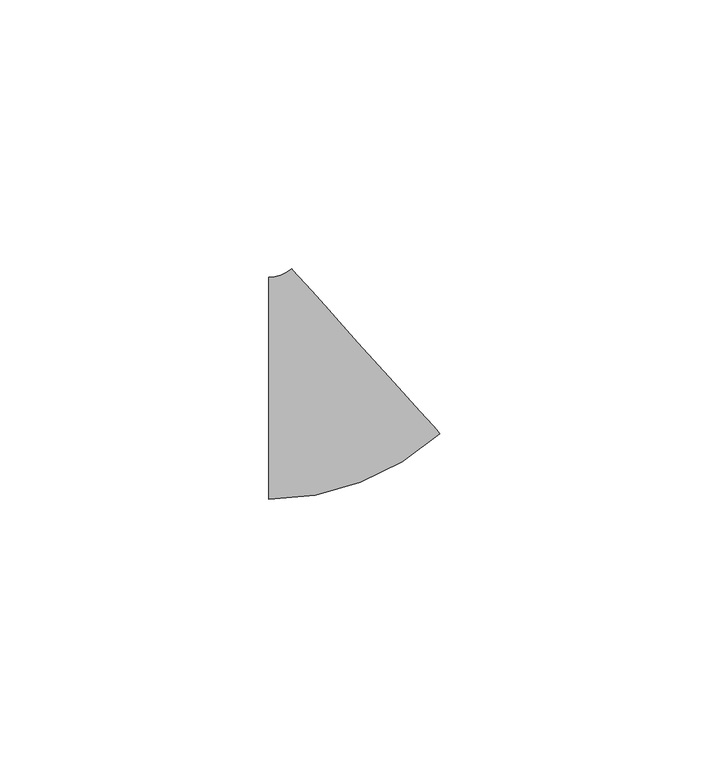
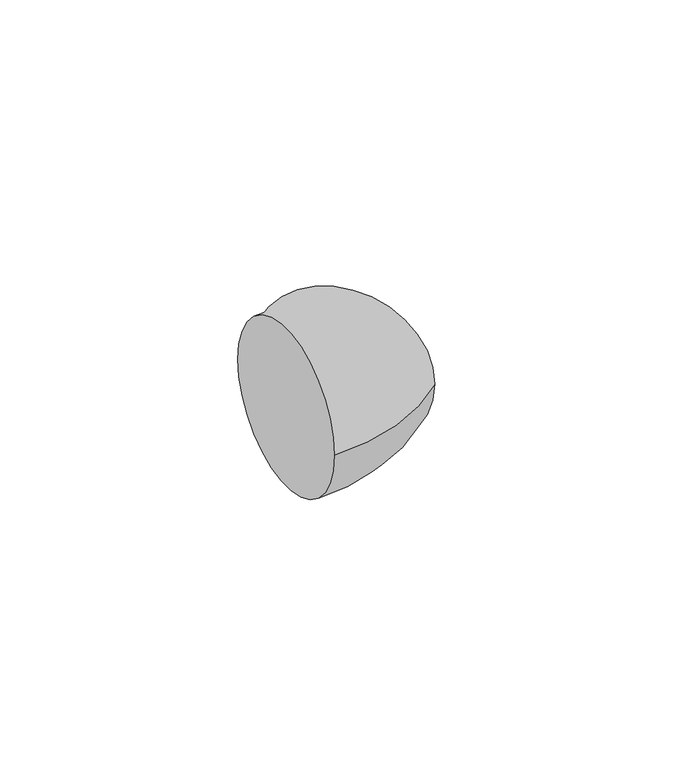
"""IFC4 building model written with IfcOpenShell, lengths in millimetres: pipe fitting geometry, M_Codo - Genérico : Estándar."""

from ifc_helpers import new_model, si_unit, point, frame, origin, place, context, project, spatial, circle_curve, ellipse_curve, trimmed, source, transform, mapped, element, save
from ifc_brep_helpers import plane_surface, revolved_surface, advanced_brep


def pipe_fitting_62cf9e26(model_context):
    return source(origin(), model_context, "Body", "AdvancedBrep", [
        advanced_brep(
        [(-10.3588997, -20.6375, 0.0), (-10.3588997, 20.6375, 0.0), (21.5070031, -8.4060709, 0.0), (-6.1101127, 22.2683572, 0.0)],
        [
            (0, 1, circle_curve(frame((-10.3588997, 0.0, 0.0), z_axis=(-1.0, 0.0, 0.0), x_axis=(0.0, 1.0, 0.0)), 20.6375)),
            (1, 0, circle_curve(frame((-10.3588997, 0.0, 0.0), z_axis=(-1.0, 0.0, 0.0), x_axis=(0.0, 1.0, 0.0)), 20.6375)),
            (2, 3, circle_curve(frame((7.6984452, 6.9311431, 0.0), z_axis=(0.7431720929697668, 0.6691003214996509, 0.0), x_axis=(-0.6691003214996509, 0.7431720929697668, 0.0)), 20.6375)),
            (3, 2, circle_curve(frame((7.6984452, 6.9311431, 0.0), z_axis=(0.7431720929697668, 0.6691003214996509, 0.0), x_axis=(-0.6691003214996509, 0.7431720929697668, 0.0)), 20.6375)),
            (3, 1, circle_curve(frame((-10.3588997, 26.9875, 0.0), z_axis=(0.0, 0.0, -1.0), x_axis=(0.0, -1.0, 0.0)), 6.35)),
            (0, 2, circle_curve(frame((-10.3588997, 26.9875, 0.0), z_axis=(0.0, 0.0, 1.0), x_axis=(0.0, -1.0, 0.0)), 47.625)),
        ],
        [
            plane_surface(frame((-10.3588997, 0.0, 0.0), z_axis=(-1.0, 0.0, 0.0), x_axis=(0.0, 0.0, 1.0))),
            plane_surface(frame((7.6984452, 6.9311431, 0.0), z_axis=(0.7431720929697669, 0.6691003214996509, 0.0), x_axis=(0.0, 0.0, 1.0))),
            revolved_surface(trimmed(ellipse_curve(frame((-10.3588997, 0.0, 0.0), z_axis=(-1.0, 0.0, 0.0), x_axis=(0.0, 1.0, 0.0)), 20.6375, 20.6375), [point((-10.3588997, -20.6375, 0.0))], [point((-10.3588997, 20.6375, 0.0))], True, "CARTESIAN"), (-10.3588997, 26.9875, 0.0), (0.0, 0.0, 1.0)),
            revolved_surface(trimmed(ellipse_curve(frame((-10.3588997, 0.0, 0.0), z_axis=(-1.0, 0.0, 0.0), x_axis=(0.0, 1.0, 0.0)), 20.6375, 20.6375), [point((-10.3588997, 20.6375, 0.0))], [point((-10.3588997, -20.6375, 0.0))], True, "CARTESIAN"), (-10.3588997, 26.9875, 0.0), (0.0, 0.0, 1.0)),
        ],
        [
            (0, [[1, 2]]),
            (1, [[3, 4]]),
            (2, [[5, -1, 6, -4]]),
            (3, [[-6, -2, -5, -3]]),
        ],
    ),
    ])


if __name__ == "__main__":
    model = new_model("IFC4")
    model_context = context("Model", 3, world=origin())
    ifc_project = project(units=[si_unit("LENGTHUNIT", "METRE", prefix="MILLI")], contexts=[model_context])
    site = spatial("IfcSite", under=ifc_project)
    building = spatial("IfcBuilding", under=site)
    placement = place(None, origin())
    pipe_fitting_shape = pipe_fitting_62cf9e26(model_context)
    element("IfcPipeFitting", 1, ObjectType="M_Codo - Genérico : Estándar", at=placement, inside=building, context=model_context, shape_type="MappedRepresentation", body=[
        mapped(pipe_fitting_shape, transform((0.0, 0.0, 0.0), x_axis=(1.0, 0.0, 0.0), y_axis=(0.0, 1.0, 0.0), z_axis=(0.0, 0.0, 1.0))),
    ])
    save(model, "model.ifc")
